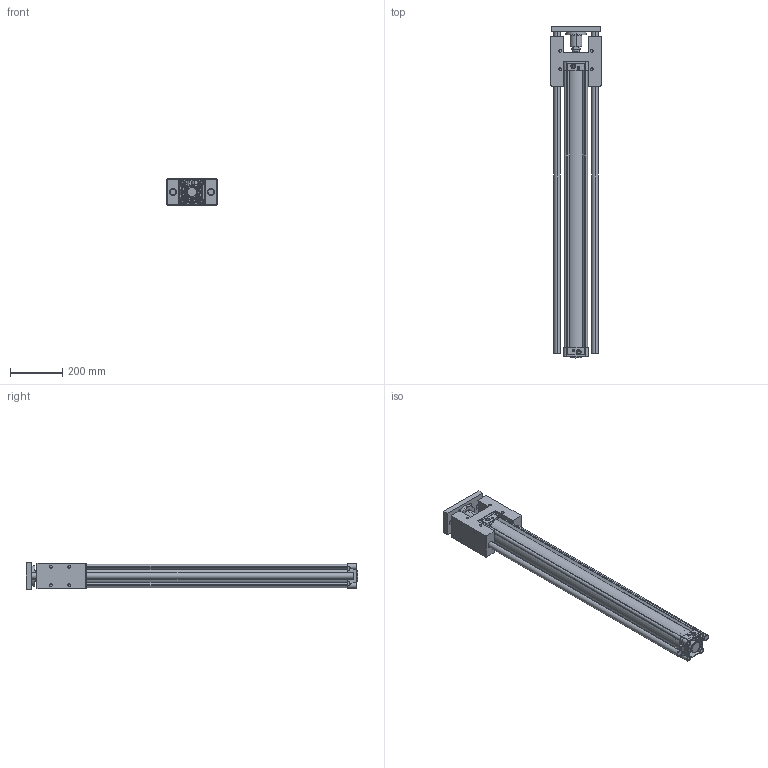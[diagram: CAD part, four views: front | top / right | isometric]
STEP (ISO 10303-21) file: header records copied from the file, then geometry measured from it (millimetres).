
FILE_DESCRIPTION (( 'STEP AP203' ), '1' );
FILE_NAME ('MDNC80X1000H-YATAK.STEP', '2016-05-20T14:41:21', ( 'user' ), ( '' ), 'SwSTEP 2.0', 'SolidWorks 2013', '' );
FILE_SCHEMA (( 'CONFIG_CONTROL_DESIGN' ));
Length unit declared in the file: millimetre
Products named in the file (11): MDNC 80X1000 BORU; ORTA PÝSTON 80; 烰 KAPAK  80; Piston Mili 80x1000; DNC-H-YATAK 80; SOMUN 80; DNC-H-YATAK M尳 80x1000; MDNC80X1000H-YATAK; DNC-H-YATAK TABLA 80; DNC-H-YATAK MÝL YATAÐI 80; ARKA KAPAK  80
Assembly tree (11 placements, depth 2):
  MDNC80X1000H-YATAK
    DNC-H-YATAK 80
    DNC-H-YATAK M尳 80x1000  x2
    DNC-H-YATAK TABLA 80
    DNC-H-YATAK MÝL YATAÐI 80
    ARKA KAPAK  80
    MDNC 80X1000 BORU
    ORTA PÝSTON 80
    烰 KAPAK  80
    Piston Mili 80x1000
    SOMUN 80
Bounding box: 191 x 1266.9 x 100.5 mm (x, y, z)
Volume: 5925348.4 mm3; surface area: 1539053.9 mm2
Topology: 11 solids, 11 shells, 1193 faces, 3097 edges, 1989 vertices
Faces by surface type: cylinder 530, plane 345, cone 214, bspline 92, torus 12
Entity records: 50010 total; most frequent: CARTESIAN_POINT 21557, ORIENTED_EDGE 6146, DIRECTION 4955, EDGE_CURVE 3073, VERTEX_POINT 1981, AXIS2_PLACEMENT_3D 1895, EDGE_LOOP 1354, FACE_OUTER_BOUND 1185
